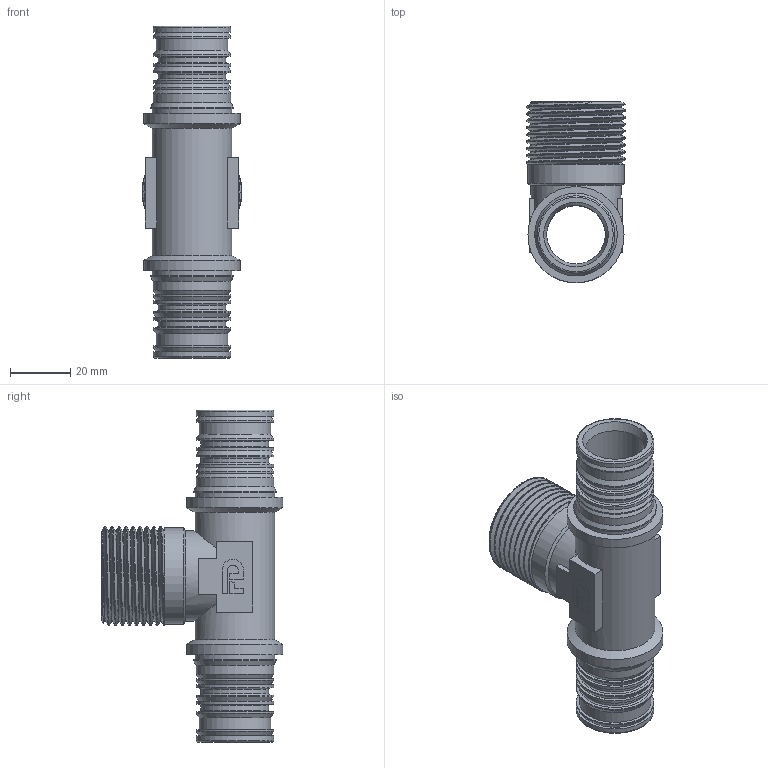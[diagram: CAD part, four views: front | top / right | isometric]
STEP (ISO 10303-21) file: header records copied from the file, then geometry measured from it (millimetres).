
FILE_DESCRIPTION(/* description */ (''),/* implementation_level */ '2;1');
FILE_NAME(/* name */ 'C:\Users\Doom\Desktop\Фадотех\Пресс\HDT27-1 31.03.2020\HDT27-1 31.03.2020.stp',/* time_stamp */ '2022-08-12T19:35:22+03:00',/* author */ ('Doom'),/* organization */ (''),/* preprocessor_version */ 'ST-DEVELOPER v18',/* originating_system */ 'Autodesk Inventor 2020',/* authorisation */ '');
FILE_SCHEMA (('AUTOMOTIVE_DESIGN { 1 0 10303 214 3 1 1 }'));
Length unit declared in the file: millimetre
Products named in the file (1): HDT27-1 31.03.2020
Bounding box: 33.25 x 60.5 x 110.5 mm (x, y, z)
Volume: 35281.5 mm3; surface area: 30783.3 mm2
Topology: 2 solids, 2 shells, 167 faces, 468 edges, 332 vertices
Faces by surface type: plane 79, cylinder 45, cone 19, bspline 14, torus 10
Full cylindrical faces by diameter (mm): 19.5 x1, 22.6 x4, 23.8 x2, 25 x1, 25.8 x16, 26.5 x3, 27.5 x2, 29.826 x2, 30 x1, 32 x3, 33.25 x8
Entity records: 10633 total; most frequent: CARTESIAN_POINT 6157, ORIENTED_EDGE 936, DIRECTION 927, EDGE_CURVE 468, AXIS2_PLACEMENT_3D 364, VERTEX_POINT 332, CIRCLE 210, EDGE_LOOP 200
